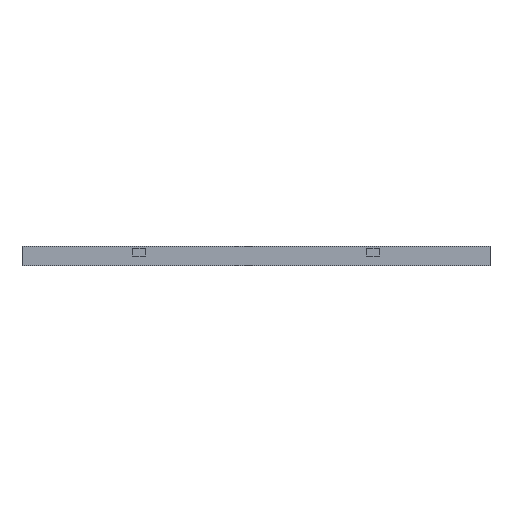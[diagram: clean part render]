
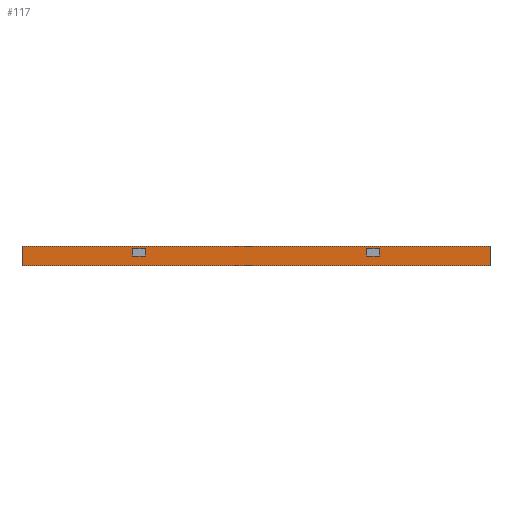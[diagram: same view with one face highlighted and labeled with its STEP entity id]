
A CAD part, left-side view. The second image highlights one B-rep face of the part: STEP entity #117.
In plain terms, the highlighted planar face has unit normal (-1, 0, 0).
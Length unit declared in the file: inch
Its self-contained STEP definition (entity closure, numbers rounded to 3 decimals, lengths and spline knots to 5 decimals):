
#16=FACE_BOUND('',#456,.T.);
#17=FACE_BOUND('',#457,.T.);
#117=ADVANCED_FACE('',(#285,#16,#17),#2797,.T.);
#285=FACE_OUTER_BOUND('',#455,.T.);
#455=EDGE_LOOP('',(#842,#843,#844,#845));
#456=EDGE_LOOP('',(#846,#847,#848,#849));
#457=EDGE_LOOP('',(#850,#851,#852,#853));
#842=ORIENTED_EDGE('',*,*,#1690,.T.);
#843=ORIENTED_EDGE('',*,*,#1691,.T.);
#844=ORIENTED_EDGE('',*,*,#1692,.T.);
#845=ORIENTED_EDGE('',*,*,#1693,.T.);
#846=ORIENTED_EDGE('',*,*,#1640,.T.);
#847=ORIENTED_EDGE('',*,*,#1670,.T.);
#848=ORIENTED_EDGE('',*,*,#1607,.T.);
#849=ORIENTED_EDGE('',*,*,#1570,.T.);
#850=ORIENTED_EDGE('',*,*,#1697,.T.);
#851=ORIENTED_EDGE('',*,*,#1694,.T.);
#852=ORIENTED_EDGE('',*,*,#1695,.T.);
#853=ORIENTED_EDGE('',*,*,#1696,.T.);
#1570=EDGE_CURVE('',#2482,#2483,#2026,.T.);
#1607=EDGE_CURVE('',#2508,#2482,#2063,.T.);
#1640=EDGE_CURVE('',#2483,#2530,#2096,.T.);
#1670=EDGE_CURVE('',#2530,#2508,#2126,.T.);
#1690=EDGE_CURVE('',#2550,#2551,#2146,.T.);
#1691=EDGE_CURVE('',#2551,#2552,#2147,.T.);
#1692=EDGE_CURVE('',#2552,#2553,#2148,.T.);
#1693=EDGE_CURVE('',#2553,#2550,#2149,.T.);
#1694=EDGE_CURVE('',#2554,#2555,#2150,.T.);
#1695=EDGE_CURVE('',#2555,#2556,#2151,.T.);
#1696=EDGE_CURVE('',#2556,#2557,#2152,.T.);
#1697=EDGE_CURVE('',#2557,#2554,#2153,.T.);
#2026=B_SPLINE_CURVE_WITH_KNOTS('',1,(#3903,#3904),.UNSPECIFIED.,.F.,.F.,
(2,2),(-1.25,0.),.UNSPECIFIED.);
#2063=B_SPLINE_CURVE_WITH_KNOTS('',1,(#3977,#3978),.UNSPECIFIED.,.F.,.F.,
(2,2),(-0.75,0.),.UNSPECIFIED.);
#2096=B_SPLINE_CURVE_WITH_KNOTS('',1,(#4043,#4044),.UNSPECIFIED.,.F.,.F.,
(2,2),(-0.75,0.),.UNSPECIFIED.);
#2126=B_SPLINE_CURVE_WITH_KNOTS('',1,(#4103,#4104),.UNSPECIFIED.,.F.,.F.,
(2,2),(-1.25,0.),.UNSPECIFIED.);
#2146=B_SPLINE_CURVE_WITH_KNOTS('',1,(#4143,#4144),.UNSPECIFIED.,.F.,.F.,
(2,2),(0.,48.),.UNSPECIFIED.);
#2147=B_SPLINE_CURVE_WITH_KNOTS('',1,(#4145,#4146),.UNSPECIFIED.,.F.,.F.,
(2,2),(0.,2.),.UNSPECIFIED.);
#2148=B_SPLINE_CURVE_WITH_KNOTS('',1,(#4147,#4148),.UNSPECIFIED.,.F.,.F.,
(2,2),(0.,48.),.UNSPECIFIED.);
#2149=B_SPLINE_CURVE_WITH_KNOTS('',1,(#4149,#4150),.UNSPECIFIED.,.F.,.F.,
(2,2),(0.,2.),.UNSPECIFIED.);
#2150=B_SPLINE_CURVE_WITH_KNOTS('',1,(#4151,#4152),.UNSPECIFIED.,.F.,.F.,
(2,2),(0.,1.25),.UNSPECIFIED.);
#2151=B_SPLINE_CURVE_WITH_KNOTS('',1,(#4153,#4154),.UNSPECIFIED.,.F.,.F.,
(2,2),(0.,0.75),.UNSPECIFIED.);
#2152=B_SPLINE_CURVE_WITH_KNOTS('',1,(#4155,#4156),.UNSPECIFIED.,.F.,.F.,
(2,2),(0.,1.25),.UNSPECIFIED.);
#2153=B_SPLINE_CURVE_WITH_KNOTS('',1,(#4157,#4158),.UNSPECIFIED.,.F.,.F.,
(2,2),(0.,0.75),.UNSPECIFIED.);
#2482=VERTEX_POINT('',#3555);
#2483=VERTEX_POINT('',#3556);
#2508=VERTEX_POINT('',#3581);
#2530=VERTEX_POINT('',#3603);
#2550=VERTEX_POINT('',#3623);
#2551=VERTEX_POINT('',#3624);
#2552=VERTEX_POINT('',#3625);
#2553=VERTEX_POINT('',#3626);
#2554=VERTEX_POINT('',#3627);
#2555=VERTEX_POINT('',#3628);
#2556=VERTEX_POINT('',#3629);
#2557=VERTEX_POINT('',#3630);
#2797=PLANE('',#3056);
#3056=AXIS2_PLACEMENT_3D('',#3398,#3227,$);
#3227=DIRECTION('',(-1.,0.,0.));
#3398=CARTESIAN_POINT('',(-21.25,28.80472,1.20472));
#3555=CARTESIAN_POINT('',(-21.25,12.625,0.75));
#3556=CARTESIAN_POINT('',(-21.25,11.375,0.75));
#3581=CARTESIAN_POINT('',(-21.25,12.625,0.));
#3603=CARTESIAN_POINT('',(-21.25,11.375,0.));
#3623=CARTESIAN_POINT('',(-21.25,24.,-1.));
#3624=CARTESIAN_POINT('',(-21.25,-24.,-1.));
#3625=CARTESIAN_POINT('',(-21.25,-24.,1.));
#3626=CARTESIAN_POINT('',(-21.25,24.,1.));
#3627=CARTESIAN_POINT('',(-21.25,-11.375,0.75));
#3628=CARTESIAN_POINT('',(-21.25,-12.625,0.75));
#3629=CARTESIAN_POINT('',(-21.25,-12.625,0.));
#3630=CARTESIAN_POINT('',(-21.25,-11.375,0.));
#3903=CARTESIAN_POINT('',(-21.25,12.625,0.75));
#3904=CARTESIAN_POINT('',(-21.25,11.375,0.75));
#3977=CARTESIAN_POINT('',(-21.25,12.625,0.));
#3978=CARTESIAN_POINT('',(-21.25,12.625,0.75));
#4043=CARTESIAN_POINT('',(-21.25,11.375,0.75));
#4044=CARTESIAN_POINT('',(-21.25,11.375,0.));
#4103=CARTESIAN_POINT('',(-21.25,11.375,0.));
#4104=CARTESIAN_POINT('',(-21.25,12.625,0.));
#4143=CARTESIAN_POINT('',(-21.25,24.,-1.));
#4144=CARTESIAN_POINT('',(-21.25,-24.,-1.));
#4145=CARTESIAN_POINT('',(-21.25,-24.,-1.));
#4146=CARTESIAN_POINT('',(-21.25,-24.,1.));
#4147=CARTESIAN_POINT('',(-21.25,-24.,1.));
#4148=CARTESIAN_POINT('',(-21.25,24.,1.));
#4149=CARTESIAN_POINT('',(-21.25,24.,1.));
#4150=CARTESIAN_POINT('',(-21.25,24.,-1.));
#4151=CARTESIAN_POINT('',(-21.25,-11.375,0.75));
#4152=CARTESIAN_POINT('',(-21.25,-12.625,0.75));
#4153=CARTESIAN_POINT('',(-21.25,-12.625,0.75));
#4154=CARTESIAN_POINT('',(-21.25,-12.625,0.));
#4155=CARTESIAN_POINT('',(-21.25,-12.625,0.));
#4156=CARTESIAN_POINT('',(-21.25,-11.375,0.));
#4157=CARTESIAN_POINT('',(-21.25,-11.375,0.));
#4158=CARTESIAN_POINT('',(-21.25,-11.375,0.75));
